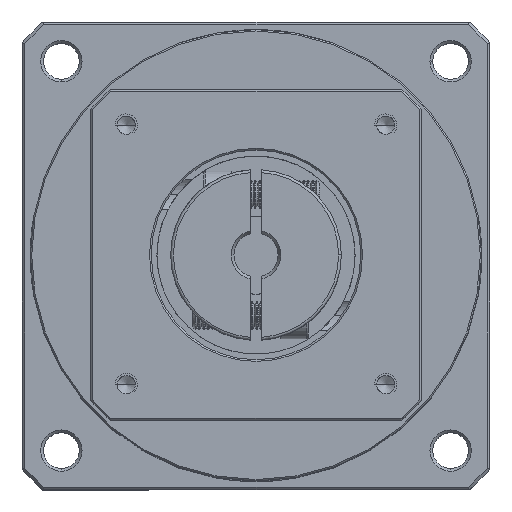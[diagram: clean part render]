
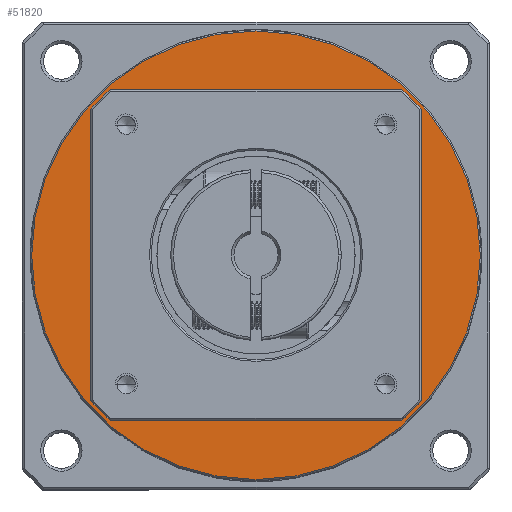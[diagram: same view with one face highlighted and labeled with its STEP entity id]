
A CAD part, top view. The second image highlights one B-rep face of the part: STEP entity #51820.
In plain terms, the highlighted planar face has unit normal (0, 0, 1).
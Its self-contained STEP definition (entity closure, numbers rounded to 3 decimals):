
#6407 = CARTESIAN_POINT ( 'NONE',  ( -22.259, 20.516, -20.918 ) ) ;
#6567 = EDGE_CURVE ( 'NONE', #87485, #85983, #33616, .T. ) ;
#7040 = CARTESIAN_POINT ( 'NONE',  ( -63.009, 20.516, -20.918 ) ) ;
#10108 = VERTEX_POINT ( 'NONE', #108238 ) ;
#14082 = CIRCLE ( 'NONE', #39539, 40.75 ) ;
#14567 = DIRECTION ( 'NONE',  ( 0., 0., -1. ) ) ;
#15876 = DIRECTION ( 'NONE',  ( 1., 0., 0. ) ) ;
#17764 = CARTESIAN_POINT ( 'NONE',  ( -63.009, 20.516, -20.918 ) ) ;
#22802 = EDGE_CURVE ( 'NONE', #87418, #10108, #86093, .T. ) ;
#24340 = PLANE ( 'NONE',  #79072 ) ;
#26689 = DIRECTION ( 'NONE',  ( -1., 0., 0. ) ) ;
#28719 = DIRECTION ( 'NONE',  ( 0., 0., -1. ) ) ;
#30303 = CARTESIAN_POINT ( 'NONE',  ( -63.009, 20.516, -20.918 ) ) ;
#33616 = CIRCLE ( 'NONE', #109006, 40.75 ) ;
#39196 = DIRECTION ( 'NONE',  ( -1., 0., 0. ) ) ;
#39539 = AXIS2_PLACEMENT_3D ( 'NONE', #17764, #79560, #26689 ) ;
#47867 = CIRCLE ( 'NONE', #101975, 30. ) ;
#51820 = ADVANCED_FACE ( 'NONE', ( #98959, #96226 ), #24340, .T. ) ;
#53342 = AXIS2_PLACEMENT_3D ( 'NONE', #67414, #14567, #76322 ) ;
#59704 = ORIENTED_EDGE ( 'NONE', *, *, #79366, .F. ) ;
#64564 = ORIENTED_EDGE ( 'NONE', *, *, #6567, .F. ) ;
#65724 = CARTESIAN_POINT ( 'NONE',  ( -103.759, 20.516, -20.918 ) ) ;
#67414 = CARTESIAN_POINT ( 'NONE',  ( -63.009, 20.516, -20.918 ) ) ;
#68710 = DIRECTION ( 'NONE',  ( 0., 0., 1. ) ) ;
#70648 = ORIENTED_EDGE ( 'NONE', *, *, #22802, .T. ) ;
#71996 = ORIENTED_EDGE ( 'NONE', *, *, #87347, .T. ) ;
#76322 = DIRECTION ( 'NONE',  ( -1., 0., 0. ) ) ;
#79072 = AXIS2_PLACEMENT_3D ( 'NONE', #7040, #68710, #15876 ) ;
#79366 = EDGE_CURVE ( 'NONE', #85983, #87485, #14082, .T. ) ;
#79395 = EDGE_LOOP ( 'NONE', ( #70648, #71996 ) ) ;
#79560 = DIRECTION ( 'NONE',  ( 0., 0., -1. ) ) ;
#81620 = CARTESIAN_POINT ( 'NONE',  ( -63.009, 20.516, -20.918 ) ) ;
#83560 = EDGE_LOOP ( 'NONE', ( #64564, #59704 ) ) ;
#85983 = VERTEX_POINT ( 'NONE', #6407 ) ;
#86093 = CIRCLE ( 'NONE', #53342, 30. ) ;
#87347 = EDGE_CURVE ( 'NONE', #10108, #87418, #47867, .T. ) ;
#87418 = VERTEX_POINT ( 'NONE', #91115 ) ;
#87485 = VERTEX_POINT ( 'NONE', #65724 ) ;
#90378 = DIRECTION ( 'NONE',  ( -1., 0., 0. ) ) ;
#91115 = CARTESIAN_POINT ( 'NONE',  ( -93.009, 20.516, -20.918 ) ) ;
#91983 = DIRECTION ( 'NONE',  ( 0., 0., -1. ) ) ;
#96226 = FACE_BOUND ( 'NONE', #79395, .T. ) ;
#98959 = FACE_OUTER_BOUND ( 'NONE', #83560, .T. ) ;
#101975 = AXIS2_PLACEMENT_3D ( 'NONE', #81620, #28719, #90378 ) ;
#108238 = CARTESIAN_POINT ( 'NONE',  ( -33.009, 20.516, -20.918 ) ) ;
#109006 = AXIS2_PLACEMENT_3D ( 'NONE', #30303, #91983, #39196 ) ;
